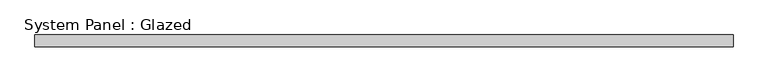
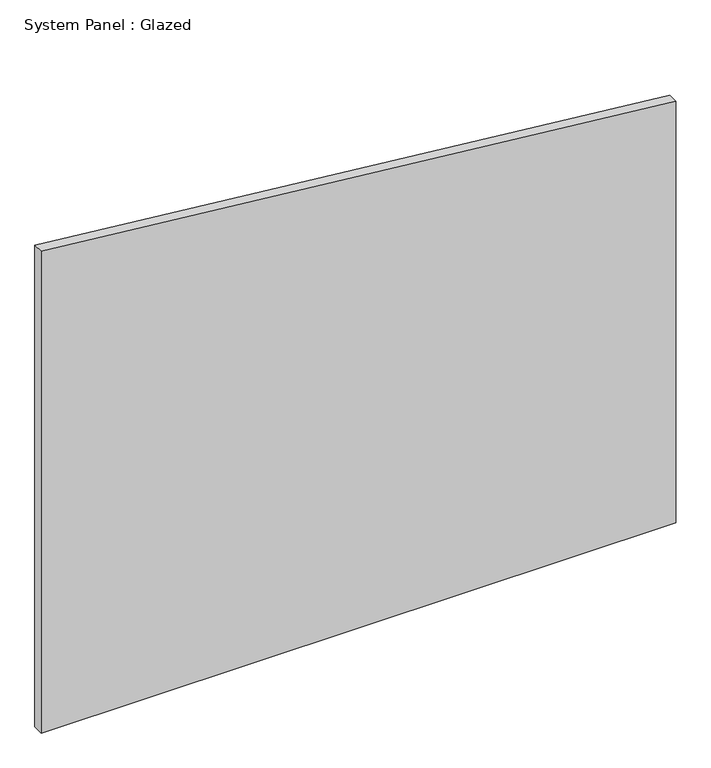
"""IFC4 building model written with IfcOpenShell, lengths in millimetres: plate geometry, System Panel : Glazed."""

from ifc_helpers import new_model, si_unit, frame, origin, place, context, project, spatial, polyline, outline, extrude, source, transform, mapped, element, save


def system_panel_glazed_5ba77e40(model_context):
    return source(origin(), model_context, "Body", "SweptSolid", [
        extrude(outline(polyline([(0.0, -735.8695652), (0.0, 735.8695652), (1033.2825537, 735.8695652), (1181.2655324, -735.8695652), (0.0, -735.8695652)])), frame((0.0, 24.5, 0.0), z_axis=(0.0, 1.0, 0.0), x_axis=(0.0, 0.0, 1.0)), (0.0, 0.0, 1.0), 25.0),
    ])


if __name__ == "__main__":
    model = new_model("IFC4")
    model_context = context("Model", 3, world=origin())
    ifc_project = project(units=[si_unit("LENGTHUNIT", "METRE", prefix="MILLI")], contexts=[model_context])
    site = spatial("IfcSite", under=ifc_project)
    building = spatial("IfcBuilding", under=site)
    placement = place(None, origin())
    system_panel_glazed_shape = system_panel_glazed_5ba77e40(model_context)
    element("IfcPlate", 1, ObjectType="System Panel : Glazed", at=placement, inside=building, context=model_context, shape_type="MappedRepresentation", body=[
        mapped(system_panel_glazed_shape, transform((0.0, 0.0, 0.0), x_axis=(1.0, 0.0, 0.0), y_axis=(0.0, 1.0, 0.0), z_axis=(0.0, 0.0, 1.0))),
    ])
    save(model, "model.ifc")
